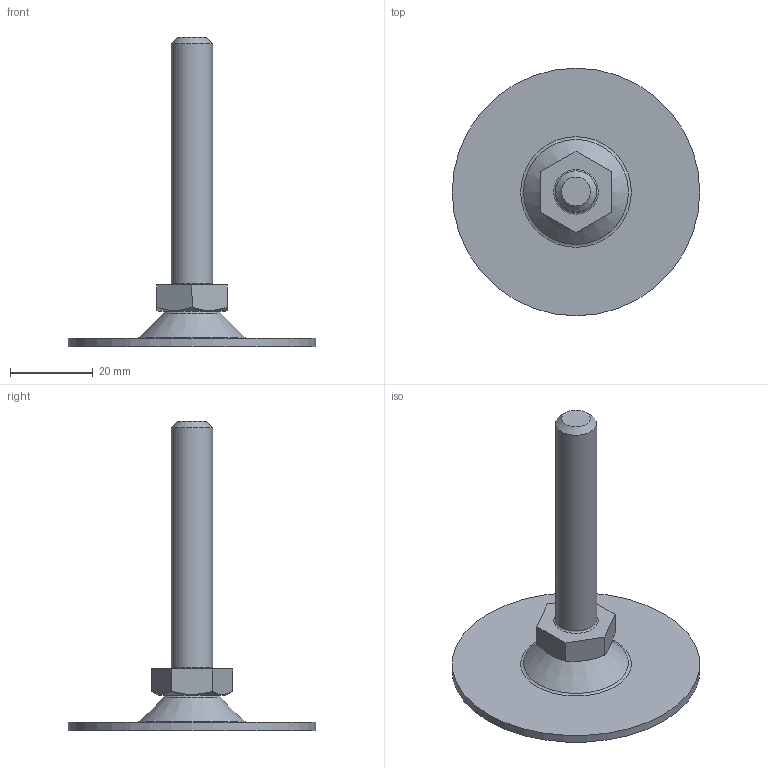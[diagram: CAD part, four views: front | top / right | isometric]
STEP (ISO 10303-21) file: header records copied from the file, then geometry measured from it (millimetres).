
FILE_DESCRIPTION(('STEP AP203'), '1');
FILE_NAME('A00050.1061016', '', ('UNSPECIFIED'), ('UNSPECIFIED'), 'C3D Converter', 'C3D Toolkit', '');
FILE_SCHEMA(('CONFIG_CONTROL_DESIGN'));
Length unit declared in the file: millimetre
Products named in the file (4): A00050.1061060; A00050.1160
Assembly tree (3 placements, depth 2):
  A00050.1061060
    A00050.1160
    (unnamed)
    (unnamed)
Bounding box: 60 x 60 x 74.93 mm (x, y, z)
Volume: 12207.3 mm3; surface area: 9471.9 mm2
Topology: 3 solids, 3 shells, 58 faces, 130 edges, 82 vertices
Faces by surface type: plane 28, torus 8, bspline 8, cone 7, cylinder 6, sphere 1
Full cylindrical faces by diameter (mm): 3.3 x1, 4 x1, 4.5 x1, 8 x1, 10 x1, 60 x1
Entity records: 2171 total; most frequent: CARTESIAN_POINT 784, DIRECTION 242, ORIENTED_EDGE 214, EDGE_CURVE 107, AXIS2_PLACEMENT_3D 95, EDGE_LOOP 86, VERTEX_POINT 81, ADVANCED_FACE 58
